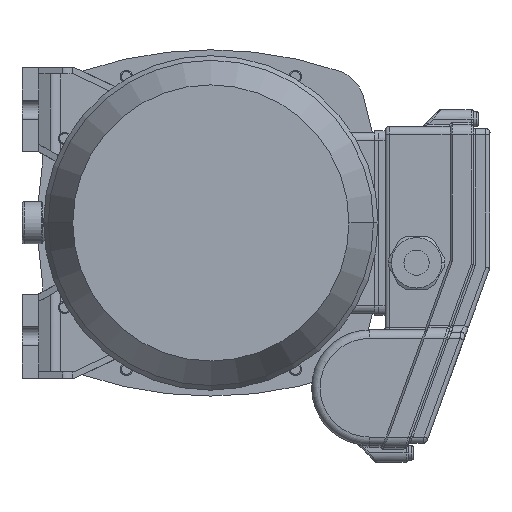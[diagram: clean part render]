
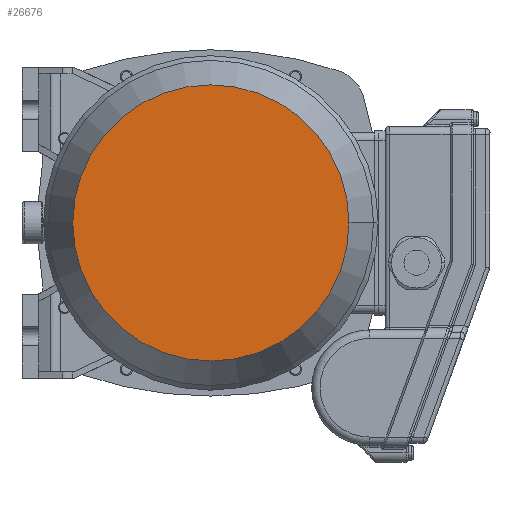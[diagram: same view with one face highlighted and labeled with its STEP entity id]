
A CAD part, front view. The second image highlights one B-rep face of the part: STEP entity #26676.
In plain terms, the highlighted planar face has unit normal (0, -1, 0) as drawn and (1, 0, 0) by its records, which use the part's own axes.
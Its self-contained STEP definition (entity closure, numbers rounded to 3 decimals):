
#19188=CARTESIAN_POINT('',(216.,0.,0.));
#19189=DIRECTION('',(-1.,0.,0.));
#19190=DIRECTION('',(0.,1.,0.));
#19191=AXIS2_PLACEMENT_3D('',#19188,#19189,#19190);
#19196=CARTESIAN_POINT('',(216.,0.,0.));
#19197=DIRECTION('',(1.,0.,0.));
#19198=DIRECTION('',(0.,1.,0.));
#19199=AXIS2_PLACEMENT_3D('',#19196,#19197,#19198);
#20503=CARTESIAN_POINT('',(216.,65.794,0.));
#20505=VERTEX_POINT('',#20503);
#20513=CARTESIAN_POINT('',(216.,-65.794,0.));
#20515=VERTEX_POINT('',#20513);
#26667=CARTESIAN_POINT('',(216.,0.,0.));
#26668=DIRECTION('',(1.,0.,0.));
#26669=DIRECTION('',(0.,-1.,0.));
#26670=AXIS2_PLACEMENT_3D('',#26667,#26668,#26669);
#26671=PLANE('',#26670);
#26672=ORIENTED_EDGE('',*,*,#26635,.T.);
#26673=ORIENTED_EDGE('',*,*,#26653,.F.);
#26674=EDGE_LOOP('',(#26672,#26673));
#26675=FACE_OUTER_BOUND('',#26674,.F.);
#19192=CIRCLE('',#19191,65.794);
#19200=CIRCLE('',#19199,65.794);
#26635=EDGE_CURVE('',#20505,#20515,#19192,.T.);
#26653=EDGE_CURVE('',#20505,#20515,#19200,.T.);
#26676=ADVANCED_FACE('',(#26675),#26671,.T.);
